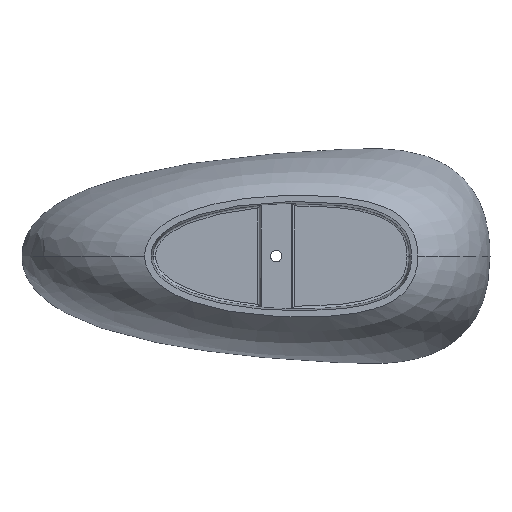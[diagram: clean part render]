
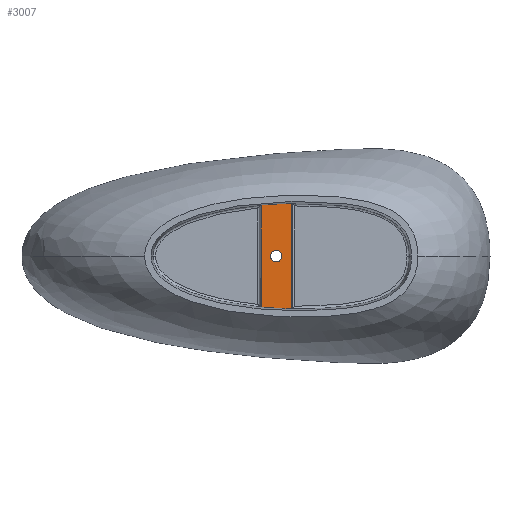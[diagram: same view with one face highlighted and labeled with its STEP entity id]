
A CAD part, front view. The second image highlights one B-rep face of the part: STEP entity #3007.
In plain terms, the highlighted planar face has unit normal (0, -1, 0).
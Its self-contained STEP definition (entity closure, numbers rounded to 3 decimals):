
#114 = CARTESIAN_POINT ( 'NONE',  ( 51.852, -496., -205.205 ) ) ;
#181 = EDGE_CURVE ( 'NONE', #204, #6753, #5722, .T. ) ;
#204 = VERTEX_POINT ( 'NONE', #4111 ) ;
#268 = CARTESIAN_POINT ( 'NONE',  ( 21., -496., 255.611 ) ) ;
#395 = ORIENTED_EDGE ( 'NONE', *, *, #181, .T. ) ;
#460 = EDGE_CURVE ( 'NONE', #3432, #6060, #5543, .T. ) ;
#543 = DIRECTION ( 'NONE',  ( 0., 1., 0. ) ) ;
#660 = CARTESIAN_POINT ( 'NONE',  ( 122.336, -496., -208.491 ) ) ;
#674 = EDGE_LOOP ( 'NONE', ( #6952, #1566, #2294, #3168 ) ) ;
#730 = CARTESIAN_POINT ( 'NONE',  ( 130.413, -496., 208.72 ) ) ;
#879 = CARTESIAN_POINT ( 'NONE',  ( 139., -496., -208.904 ) ) ;
#1181 = EDGE_CURVE ( 'NONE', #6060, #5231, #5114, .T. ) ;
#1215 = CARTESIAN_POINT ( 'NONE',  ( 139., -496., -208.904 ) ) ;
#1456 = FACE_OUTER_BOUND ( 'NONE', #674, .T. ) ;
#1566 = ORIENTED_EDGE ( 'NONE', *, *, #3325, .T. ) ;
#1702 = CARTESIAN_POINT ( 'NONE',  ( 139., -496., 208.9 ) ) ;
#1889 = DIRECTION ( 'NONE',  ( 0., 0., -1. ) ) ;
#1891 = DIRECTION ( 'NONE',  ( 0., 1., 0. ) ) ;
#2294 = ORIENTED_EDGE ( 'NONE', *, *, #6667, .T. ) ;
#2374 = CARTESIAN_POINT ( 'NONE',  ( 121.832, -496., 208.477 ) ) ;
#2412 = EDGE_LOOP ( 'NONE', ( #2586, #395 ) ) ;
#2455 = DIRECTION ( 'NONE',  ( 0., 1., 0. ) ) ;
#2473 = CARTESIAN_POINT ( 'NONE',  ( 139., -496., 208.9 ) ) ;
#2481 = CARTESIAN_POINT ( 'NONE',  ( 21., -496., 202.411 ) ) ;
#2586 = ORIENTED_EDGE ( 'NONE', *, *, #6165, .T. ) ;
#2657 = VECTOR ( 'NONE', #1889, 1000. ) ;
#2730 = FACE_BOUND ( 'NONE', #2412, .T. ) ;
#2925 = CARTESIAN_POINT ( 'NONE',  ( 51.667, -496., 205.189 ) ) ;
#3007 = ADVANCED_FACE ( 'NONE', ( #2730, #1456 ), #4612, .F. ) ;
#3168 = ORIENTED_EDGE ( 'NONE', *, *, #460, .T. ) ;
#3325 = EDGE_CURVE ( 'NONE', #5231, #3679, #5628, .T. ) ;
#3374 = CARTESIAN_POINT ( 'NONE',  ( 82.86, -496., -207.102 ) ) ;
#3432 = VERTEX_POINT ( 'NONE', #2481 ) ;
#3556 = DIRECTION ( 'NONE',  ( 0., 0., 1. ) ) ;
#3679 = VERTEX_POINT ( 'NONE', #2473 ) ;
#3799 = AXIS2_PLACEMENT_3D ( 'NONE', #5155, #1891, #5702 ) ;
#3807 = CARTESIAN_POINT ( 'NONE',  ( 80., -496., 0. ) ) ;
#3932 = CARTESIAN_POINT ( 'NONE',  ( 21., -496., -202.411 ) ) ;
#4111 = CARTESIAN_POINT ( 'NONE',  ( 80., -496., -22.5 ) ) ;
#4279 = CIRCLE ( 'NONE', #5864, 22.5 ) ;
#4363 = DIRECTION ( 'NONE',  ( 0., 0., 1. ) ) ;
#4486 = CARTESIAN_POINT ( 'NONE',  ( 130.669, -496., -208.726 ) ) ;
#4612 = PLANE ( 'NONE',  #3799 ) ;
#5090 = CARTESIAN_POINT ( 'NONE',  ( 80., -496., 22.5 ) ) ;
#5114 = B_SPLINE_CURVE_WITH_KNOTS ( 'NONE', 3,
 ( #3932, #114, #3374, #660, #4486, #1215 ),
 .UNSPECIFIED., .F., .F.,
 ( 4, 2, 4 ),
 ( 0.004, 0.097, 0.122 ),
 .UNSPECIFIED. ) ;
#5155 = CARTESIAN_POINT ( 'NONE',  ( 143., -496., 255.611 ) ) ;
#5231 = VERTEX_POINT ( 'NONE', #879 ) ;
#5386 = B_SPLINE_CURVE_WITH_KNOTS ( 'NONE', 3,
 ( #1702, #730, #2374, #6193, #2925, #6742 ),
 .UNSPECIFIED., .F., .F.,
 ( 4, 2, 4 ),
 ( 0.004, 0.03, 0.122 ),
 .UNSPECIFIED. ) ;
#5456 = VECTOR ( 'NONE', #3556, 1000. ) ;
#5543 = LINE ( 'NONE', #268, #2657 ) ;
#5628 = LINE ( 'NONE', #6829, #5456 ) ;
#5702 = DIRECTION ( 'NONE',  ( 0., 0., 1. ) ) ;
#5722 = CIRCLE ( 'NONE', #6999, 22.5 ) ;
#5726 = DIRECTION ( 'NONE',  ( 0., 0., 1. ) ) ;
#5864 = AXIS2_PLACEMENT_3D ( 'NONE', #3807, #543, #4363 ) ;
#6060 = VERTEX_POINT ( 'NONE', #6423 ) ;
#6165 = EDGE_CURVE ( 'NONE', #6753, #204, #4279, .T. ) ;
#6193 = CARTESIAN_POINT ( 'NONE',  ( 82.424, -496., 207.074 ) ) ;
#6278 = CARTESIAN_POINT ( 'NONE',  ( 80., -496., 0. ) ) ;
#6423 = CARTESIAN_POINT ( 'NONE',  ( 21., -496., -202.411 ) ) ;
#6667 = EDGE_CURVE ( 'NONE', #3679, #3432, #5386, .T. ) ;
#6742 = CARTESIAN_POINT ( 'NONE',  ( 21., -496., 202.411 ) ) ;
#6753 = VERTEX_POINT ( 'NONE', #5090 ) ;
#6829 = CARTESIAN_POINT ( 'NONE',  ( 139., -496., 255.611 ) ) ;
#6952 = ORIENTED_EDGE ( 'NONE', *, *, #1181, .T. ) ;
#6999 = AXIS2_PLACEMENT_3D ( 'NONE', #6278, #2455, #5726 ) ;
